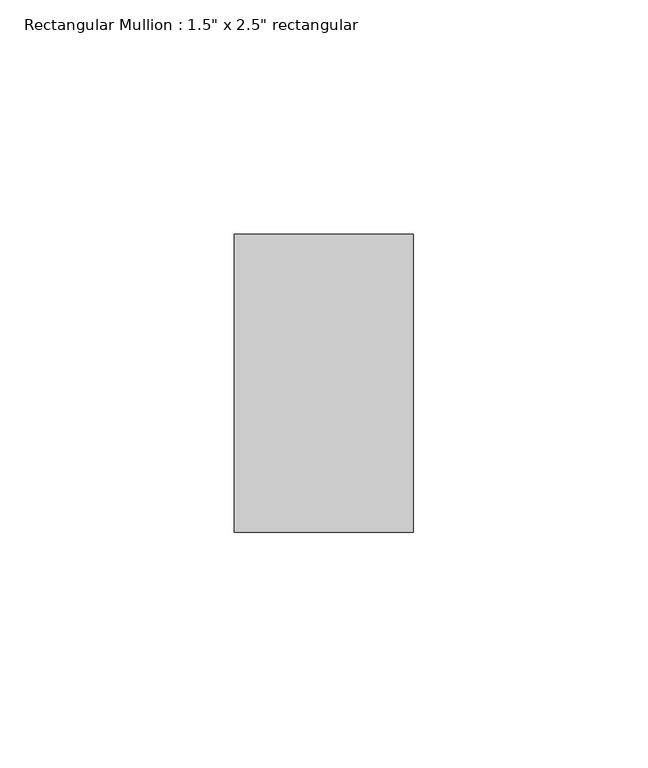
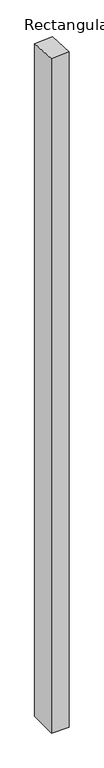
"""IFC4 building model written with IfcOpenShell, lengths in millimetres: member geometry."""

from ifc_helpers import new_model, si_unit, origin, place, context, project, spatial, faceted_brep, source, transform, mapped, element, save


def member_0317ee9b(model_context):
    return source(origin(), model_context, "Body", "Brep", [
        faceted_brep([(0.0, 31.75, -1544.3406004), (0.0, -31.75, -1544.3406004), (-38.1, -31.75, -1544.3406004), (-38.1, 31.75, -1544.3406004), (-38.1, 31.75, -4.7118089), (0.0, 31.75, -2.1470263), (-38.1, -31.75, -0.4177563), (0.0, -31.75, 2.1470263)], [[[0, 1, 2, 3]], [[4, 5, 0, 3]], [[6, 4, 3, 2]], [[7, 6, 2, 1]], [[5, 7, 1, 0]], [[5, 4, 6, 7]]]),
    ])


if __name__ == "__main__":
    model = new_model("IFC4")
    model_context = context("Model", 3, world=origin())
    ifc_project = project(units=[si_unit("LENGTHUNIT", "METRE", prefix="MILLI")], contexts=[model_context])
    site = spatial("IfcSite", under=ifc_project)
    building = spatial("IfcBuilding", under=site)
    placement = place(None, origin())
    member_shape = member_0317ee9b(model_context)
    element("IfcMember", 1, ObjectType="Rectangular Mullion : 1.5\" x 2.5\" rectangular", at=placement, inside=building, context=model_context, shape_type="MappedRepresentation", body=[
        mapped(member_shape, transform((0.0, 0.0, 0.0), x_axis=(1.0, 0.0, 0.0), y_axis=(0.0, 1.0, 0.0), z_axis=(0.0, 0.0, 1.0))),
    ])
    save(model, "model.ifc")
